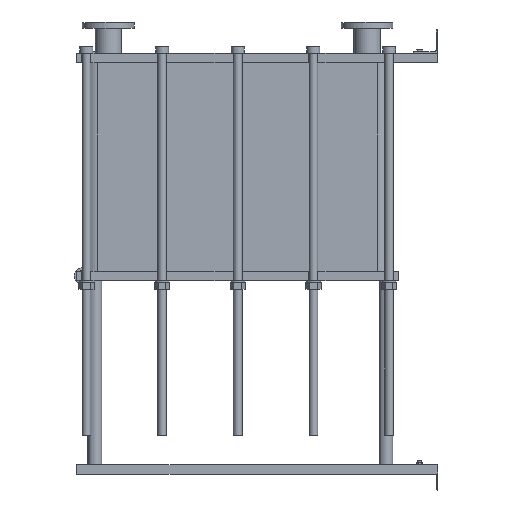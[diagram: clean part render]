
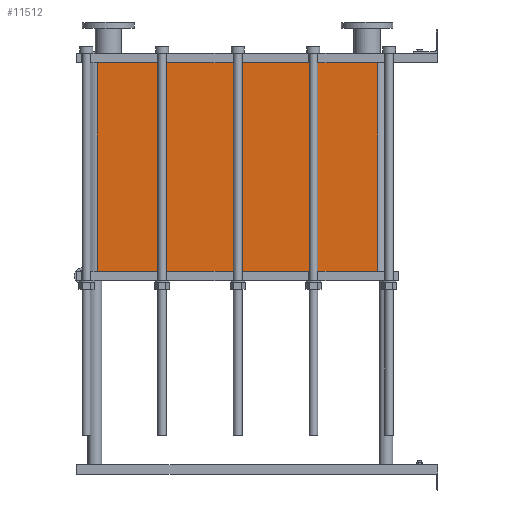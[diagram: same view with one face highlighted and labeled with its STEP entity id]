
A CAD part, left-side view. The second image highlights one B-rep face of the part: STEP entity #11512.
In plain terms, the highlighted planar face has unit normal (-1, 0, 0).
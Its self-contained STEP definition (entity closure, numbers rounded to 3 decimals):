
#1129=LINE('',#23232,#2102);
#1130=LINE('',#23236,#2103);
#1131=LINE('',#23238,#2104);
#1132=LINE('',#23239,#2105);
#2102=VECTOR('',#15887,10.);
#2103=VECTOR('',#15892,10.);
#2104=VECTOR('',#15893,10.);
#2105=VECTOR('',#15894,10.);
#3267=FACE_OUTER_BOUND('',#4093,.T.);
#4093=EDGE_LOOP('',(#10103,#10104,#10105,#10106));
#5642=VERTEX_POINT('',#23229);
#5643=VERTEX_POINT('',#23231);
#5644=VERTEX_POINT('',#23235);
#5645=VERTEX_POINT('',#23237);
#7159=EDGE_CURVE('',#5643,#5642,#1129,.T.);
#7161=EDGE_CURVE('',#5642,#5644,#1130,.T.);
#7162=EDGE_CURVE('',#5645,#5644,#1131,.T.);
#7163=EDGE_CURVE('',#5645,#5643,#1132,.T.);
#10103=ORIENTED_EDGE('',*,*,#7161,.T.);
#10104=ORIENTED_EDGE('',*,*,#7162,.F.);
#10105=ORIENTED_EDGE('',*,*,#7163,.T.);
#10106=ORIENTED_EDGE('',*,*,#7159,.T.);
#10857=PLANE('',#12751);
#11512=ADVANCED_FACE('',(#3267),#10857,.T.);
#12751=AXIS2_PLACEMENT_3D('',#23234,#15890,#15891);
#15887=DIRECTION('',(0.,0.,-1.));
#15890=DIRECTION('center_axis',(-1.,0.,0.));
#15891=DIRECTION('ref_axis',(0.,1.,0.));
#15892=DIRECTION('',(0.,-1.,0.));
#15893=DIRECTION('',(0.,0.,-1.));
#15894=DIRECTION('',(0.,1.,0.));
#23229=CARTESIAN_POINT('',(-200.,1414.,-865.95));
#23231=CARTESIAN_POINT('',(-200.,1414.,0.));
#23232=CARTESIAN_POINT('',(-200.,1414.,0.));
#23234=CARTESIAN_POINT('Origin',(-200.,248.,0.));
#23235=CARTESIAN_POINT('',(-200.,248.,-865.95));
#23236=CARTESIAN_POINT('',(-200.,539.5,-865.95));
#23237=CARTESIAN_POINT('',(-200.,248.,0.));
#23238=CARTESIAN_POINT('',(-200.,248.,0.));
#23239=CARTESIAN_POINT('',(-200.,248.,0.));
